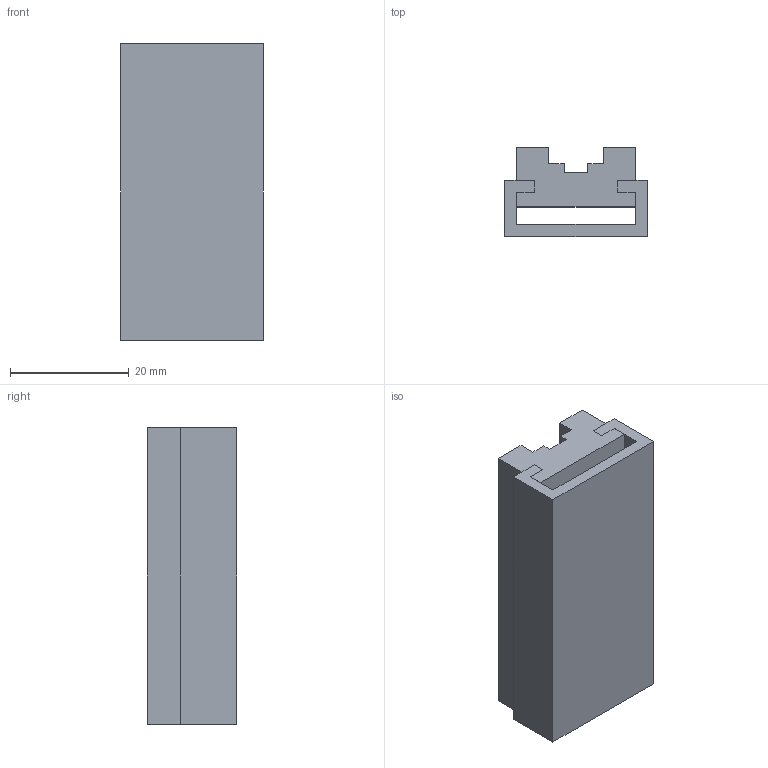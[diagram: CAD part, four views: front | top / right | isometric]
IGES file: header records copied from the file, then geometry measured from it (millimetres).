
Start section: SolidWorks IGES file using analytic representation for surfaces
Global section: file name: C:\Documents and Settings\ARGE\Desktop\yeni katalog tolgay düzenli\E kataloðu\ALPOLEN 1000 U MODEL ÇELÝK PROFÝLLÝ ZÝNCÝR KIZAKLARI\207 CUO 038.IGS; native system: SolidWorks 2006 by SolidWorks Corporation; preprocessor: SolidWorks 2006 by SolidWorks Corporation; author: ARGE2; date: 060913.092051; units: millimetre
Bounding box: 24 x 15 x 50 mm (x, y, z)
Surface area: 9192.5 mm2 (no closed solid volume)
Topology: 0 solids, 0 shells, 36 faces, 192 edges, 192 vertices
Faces by surface type: bspline 36
